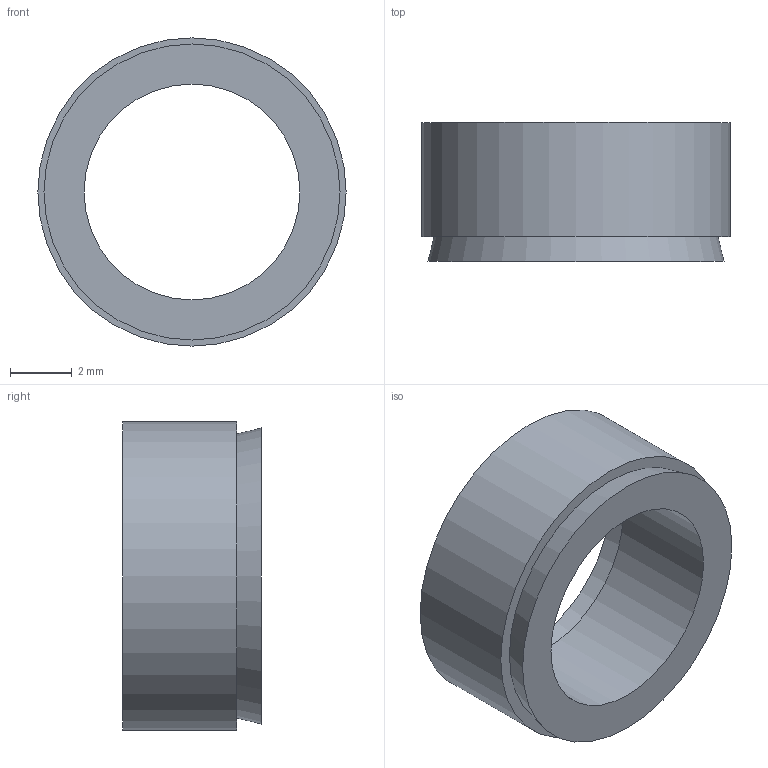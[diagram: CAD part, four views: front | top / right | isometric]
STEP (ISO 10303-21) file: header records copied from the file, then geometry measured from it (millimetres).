
FILE_DESCRIPTION( ( 'Unknown' ), '1' );
FILE_NAME( 'C:/Dokumente und Einstellungen/Sven/Desktop/homepage/cad - homepage/KBS50/KBS 50 - 7 x 10.stp', 'Unknown', ( 'Unknown' ), ( 'Unknown' ), 'XStep 1.0', 'Unknown', ' ' );
FILE_SCHEMA( ( 'automotive_design' ) );
Length unit declared in the file: millimetre
Products named in the file (1): 1
Bounding box: 10 x 4.5 x 10 mm (x, y, z)
Volume: 167.5 mm3; surface area: 332.1 mm2
Topology: 1 solids, 1 shells, 8 faces, 12 edges, 8 vertices
Faces by surface type: plane 4, cylinder 2, cone 2
Full cylindrical faces by diameter (mm): 7 x1, 10 x1
Entity records: 248 total; most frequent: DIRECTION 34, CARTESIAN_POINT 25, AXIS2_PLACEMENT_3D 17, EDGE_LOOP 16, ORIENTED_EDGE 16, FACE_OUTER_BOUND 10, STYLED_ITEM 8, PRESENTATION_STYLE_ASSIGNMENT 8
